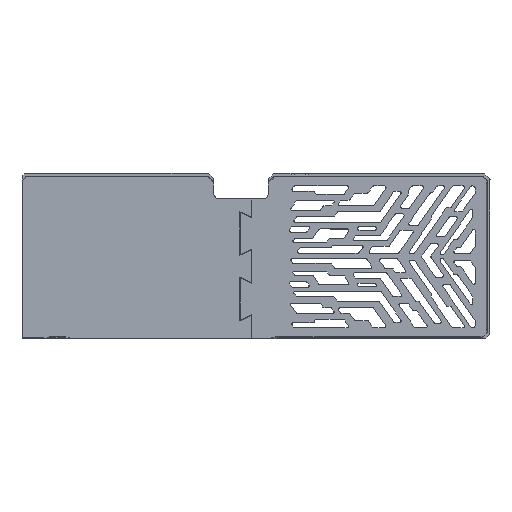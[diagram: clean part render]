
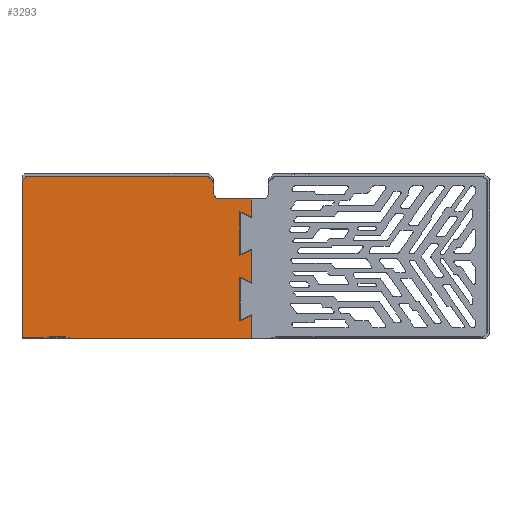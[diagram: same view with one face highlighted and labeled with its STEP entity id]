
A CAD part, top view. The second image highlights one B-rep face of the part: STEP entity #3293.
In plain terms, the highlighted planar face has unit normal (0, 0, 1).
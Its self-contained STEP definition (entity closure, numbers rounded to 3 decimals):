
#1129=DIRECTION('',(0.,-1.,0.));
#1130=VECTOR('',#1129,111.558);
#1131=CARTESIAN_POINT('',(-37.305,115.778,
-4.02));
#1132=LINE('',#1131,#1130);
#1322=DIRECTION('',(0.,1.,0.));
#1323=VECTOR('',#1322,8.133);
#1324=CARTESIAN_POINT('',(98.892,106.409,-4.02));
#1325=LINE('',#1324,#1323);
#1388=DIRECTION('',(-0.906,0.423,0.));
#1389=VECTOR('',#1388,9.048);
#1390=CARTESIAN_POINT('',(125.635,89.378,-4.02));
#1391=LINE('',#1390,#1389);
#1395=DIRECTION('',(0.,-1.,0.));
#1396=VECTOR('',#1395,30.628);
#1397=CARTESIAN_POINT('',(117.435,93.201,-4.02));
#1398=LINE('',#1397,#1396);
#1402=DIRECTION('',(0.906,0.423,0.));
#1403=VECTOR('',#1402,9.048);
#1404=CARTESIAN_POINT('',(117.435,62.573,-4.02));
#1405=LINE('',#1404,#1403);
#1409=DIRECTION('',(0.,1.,0.));
#1410=VECTOR('',#1409,23.484);
#1411=CARTESIAN_POINT('',(125.635,42.913,-4.02));
#1412=LINE('',#1411,#1410);
#1416=DIRECTION('',(-0.906,0.423,0.));
#1417=VECTOR('',#1416,9.048);
#1418=CARTESIAN_POINT('',(125.635,42.913,-4.02));
#1419=LINE('',#1418,#1417);
#1423=DIRECTION('',(0.,-1.,0.));
#1424=VECTOR('',#1423,30.628);
#1425=CARTESIAN_POINT('',(117.435,46.737,-4.02));
#1426=LINE('',#1425,#1424);
#1430=DIRECTION('',(0.906,0.423,0.));
#1431=VECTOR('',#1430,9.048);
#1432=CARTESIAN_POINT('',(117.435,16.109,-4.02));
#1433=LINE('',#1432,#1431);
#1437=DIRECTION('',(0.,1.,0.));
#1438=VECTOR('',#1437,16.613);
#1439=CARTESIAN_POINT('',(125.635,3.32,-4.02));
#1440=LINE('',#1439,#1438);
#1444=DIRECTION('',(0.,1.,0.));
#1445=VECTOR('',#1444,0.9);
#1446=CARTESIAN_POINT('',(-3.69,3.32,
-4.02));
#1447=LINE('',#1446,#1445);
#1451=CARTESIAN_POINT('',(-20.462,7.54,
-4.02));
#1452=DIRECTION('',(0.,0.,1.));
#1453=DIRECTION('',(-0.542,-0.841,0.));
#1454=AXIS2_PLACEMENT_3D('',#1451,#1452,#1453);
#1459=DIRECTION('',(1.,0.,0.));
#1460=VECTOR('',#1459,14.703);
#1461=CARTESIAN_POINT('',(-37.305,4.22,
-4.02));
#1462=LINE('',#1461,#1460);
#1466=CARTESIAN_POINT('',(-33.736,116.518,
-4.02));
#1467=DIRECTION('',(0.,0.,1.));
#1468=DIRECTION('',(0.,1.,0.));
#1469=AXIS2_PLACEMENT_3D('',#1466,#1467,#1468);
#1474=CARTESIAN_POINT('',(94.506,117.518,-4.02));
#1475=DIRECTION('',(0.,0.,1.));
#1476=DIRECTION('',(0.707,0.707,0.));
#1477=AXIS2_PLACEMENT_3D('',#1474,#1475,#1476);
#1482=DIRECTION('',(0.707,-0.707,0.));
#1483=VECTOR('',#1482,5.208);
#1484=CARTESIAN_POINT('',(95.213,118.225,-4.02));
#1485=LINE('',#1484,#1483);
#1489=CARTESIAN_POINT('',(102.892,106.408,-4.02));
#1490=DIRECTION('',(0.,0.,1.));
#1491=DIRECTION('',(-1.,0.,0.));
#1492=AXIS2_PLACEMENT_3D('',#1489,#1490,#1491);
#1497=DIRECTION('',(1.,0.,0.));
#1498=VECTOR('',#1497,22.744);
#1499=CARTESIAN_POINT('',(102.891,102.408,-4.02));
#1500=LINE('',#1499,#1498);
#1504=DIRECTION('',(0.,1.,0.));
#1505=VECTOR('',#1504,13.024);
#1506=CARTESIAN_POINT('',(125.635,89.378,-4.02));
#1507=LINE('',#1506,#1505);
#1965=DIRECTION('',(-1.,0.,0.));
#1966=VECTOR('',#1965,129.326);
#1967=CARTESIAN_POINT('',(125.635,3.32,-4.02));
#1968=LINE('',#1967,#1966);
#2175=DIRECTION('',(1.,0.,0.));
#2176=VECTOR('',#2175,14.632);
#2177=CARTESIAN_POINT('',(-18.323,4.22,
-4.02));
#2178=LINE('',#2177,#2176);
#2240=DIRECTION('',(-0.707,-0.707,0.));
#2241=VECTOR('',#2240,3.047);
#2242=CARTESIAN_POINT('',(-35.15,117.933,
-4.02));
#2243=LINE('',#2242,#2241);
#2443=DIRECTION('',(-1.,0.,0.));
#2444=VECTOR('',#2443,128.241);
#2445=CARTESIAN_POINT('',(94.506,118.518,-4.02));
#2446=LINE('',#2445,#2444);
#2592=CARTESIAN_POINT('',(95.213,118.225,-4.02));
#2593=CARTESIAN_POINT('',(98.894,114.542,-4.02));
#2594=VERTEX_POINT('',#2592);
#2595=VERTEX_POINT('',#2593);
#2602=CARTESIAN_POINT('',(125.635,3.32,-4.02));
#2604=VERTEX_POINT('',#2602);
#2614=CARTESIAN_POINT('',(125.635,89.378,-4.02));
#2615=CARTESIAN_POINT('',(117.435,93.201,-4.02));
#2616=VERTEX_POINT('',#2614);
#2617=VERTEX_POINT('',#2615);
#2618=CARTESIAN_POINT('',(117.435,62.573,-4.02));
#2619=VERTEX_POINT('',#2618);
#2620=CARTESIAN_POINT('',(125.635,66.397,-4.02));
#2621=VERTEX_POINT('',#2620);
#2622=CARTESIAN_POINT('',(117.435,46.737,-4.02));
#2623=CARTESIAN_POINT('',(117.435,16.109,-4.02));
#2624=VERTEX_POINT('',#2622);
#2625=VERTEX_POINT('',#2623);
#2626=CARTESIAN_POINT('',(125.635,19.933,-4.02));
#2627=VERTEX_POINT('',#2626);
#2628=CARTESIAN_POINT('',(125.635,42.913,-4.02));
#2629=VERTEX_POINT('',#2628);
#2638=CARTESIAN_POINT('',(125.635,102.402,-4.02));
#2639=VERTEX_POINT('',#2638);
#2640=CARTESIAN_POINT('',(-22.602,4.22,
-4.02));
#2641=CARTESIAN_POINT('',(-18.323,4.22,
-4.02));
#2642=VERTEX_POINT('',#2640);
#2643=VERTEX_POINT('',#2641);
#2672=CARTESIAN_POINT('',(98.892,106.409,-4.02));
#2673=CARTESIAN_POINT('',(102.891,102.408,-4.02));
#2674=VERTEX_POINT('',#2672);
#2675=VERTEX_POINT('',#2673);
#2703=CARTESIAN_POINT('',(-37.305,115.778,
-4.02));
#2704=CARTESIAN_POINT('',(-37.305,4.22,
-4.02));
#2705=VERTEX_POINT('',#2703);
#2706=VERTEX_POINT('',#2704);
#2707=CARTESIAN_POINT('',(-33.736,118.518,
-4.02));
#2708=CARTESIAN_POINT('',(-35.15,117.933,
-4.02));
#2709=VERTEX_POINT('',#2707);
#2710=VERTEX_POINT('',#2708);
#2711=CARTESIAN_POINT('',(94.506,118.518,-4.02));
#2712=VERTEX_POINT('',#2711);
#2739=CARTESIAN_POINT('',(-3.69,3.32,
-4.02));
#2740=CARTESIAN_POINT('',(-3.69,4.22,
-4.02));
#2741=VERTEX_POINT('',#2739);
#2742=VERTEX_POINT('',#2740);
#3243=CARTESIAN_POINT('',(0.,0.,
-4.02));
#3244=DIRECTION('',(0.,0.,-1.));
#3245=DIRECTION('',(-1.,0.,0.));
#3246=AXIS2_PLACEMENT_3D('',#3243,#3244,#3245);
#3247=PLANE('',#3246);
#3249=ORIENTED_EDGE('',*,*,#3248,.T.);
#3251=ORIENTED_EDGE('',*,*,#3250,.T.);
#3253=ORIENTED_EDGE('',*,*,#3252,.T.);
#3255=ORIENTED_EDGE('',*,*,#3254,.F.);
#3257=ORIENTED_EDGE('',*,*,#3256,.T.);
#3259=ORIENTED_EDGE('',*,*,#3258,.T.);
#3261=ORIENTED_EDGE('',*,*,#3260,.T.);
#3263=ORIENTED_EDGE('',*,*,#3262,.F.);
#3265=ORIENTED_EDGE('',*,*,#3264,.T.);
#3267=ORIENTED_EDGE('',*,*,#3266,.T.);
#3269=ORIENTED_EDGE('',*,*,#3268,.F.);
#3271=ORIENTED_EDGE('',*,*,#3270,.F.);
#3273=ORIENTED_EDGE('',*,*,#3272,.F.);
#3274=ORIENTED_EDGE('',*,*,#3035,.F.);
#3276=ORIENTED_EDGE('',*,*,#3275,.F.);
#3278=ORIENTED_EDGE('',*,*,#3277,.F.);
#3280=ORIENTED_EDGE('',*,*,#3279,.F.);
#3282=ORIENTED_EDGE('',*,*,#3281,.F.);
#3283=ORIENTED_EDGE('',*,*,#3235,.T.);
#3284=ORIENTED_EDGE('',*,*,#3190,.F.);
#3286=ORIENTED_EDGE('',*,*,#3285,.T.);
#3288=ORIENTED_EDGE('',*,*,#3287,.T.);
#3290=ORIENTED_EDGE('',*,*,#3289,.F.);
#3291=EDGE_LOOP('',(#3249,#3251,#3253,#3255,#3257,#3259,#3261,#3263,#3265,#3267,
#3269,#3271,#3273,#3274,#3276,#3278,#3280,#3282,#3283,#3284,#3286,#3288,#3290));
#3292=FACE_OUTER_BOUND('',#3291,.F.);
#1455=CIRCLE('',#1454,3.95);
#1470=CIRCLE('',#1469,2.);
#1478=CIRCLE('',#1477,1.);
#1493=CIRCLE('',#1492,4.);
#3035=EDGE_CURVE('',#2705,#2706,#1132,.T.);
#3190=EDGE_CURVE('',#2674,#2595,#1325,.T.);
#3235=EDGE_CURVE('',#2594,#2595,#1485,.T.);
#3248=EDGE_CURVE('',#2616,#2617,#1391,.T.);
#3250=EDGE_CURVE('',#2617,#2619,#1398,.T.);
#3252=EDGE_CURVE('',#2619,#2621,#1405,.T.);
#3254=EDGE_CURVE('',#2629,#2621,#1412,.T.);
#3256=EDGE_CURVE('',#2629,#2624,#1419,.T.);
#3258=EDGE_CURVE('',#2624,#2625,#1426,.T.);
#3260=EDGE_CURVE('',#2625,#2627,#1433,.T.);
#3262=EDGE_CURVE('',#2604,#2627,#1440,.T.);
#3264=EDGE_CURVE('',#2604,#2741,#1968,.T.);
#3266=EDGE_CURVE('',#2741,#2742,#1447,.T.);
#3268=EDGE_CURVE('',#2643,#2742,#2178,.T.);
#3270=EDGE_CURVE('',#2642,#2643,#1455,.T.);
#3272=EDGE_CURVE('',#2706,#2642,#1462,.T.);
#3275=EDGE_CURVE('',#2710,#2705,#2243,.T.);
#3277=EDGE_CURVE('',#2709,#2710,#1470,.T.);
#3279=EDGE_CURVE('',#2712,#2709,#2446,.T.);
#3281=EDGE_CURVE('',#2594,#2712,#1478,.T.);
#3285=EDGE_CURVE('',#2674,#2675,#1493,.T.);
#3287=EDGE_CURVE('',#2675,#2639,#1500,.T.);
#3289=EDGE_CURVE('',#2616,#2639,#1507,.T.);
#3293=ADVANCED_FACE('',(#3292),#3247,.F.);
